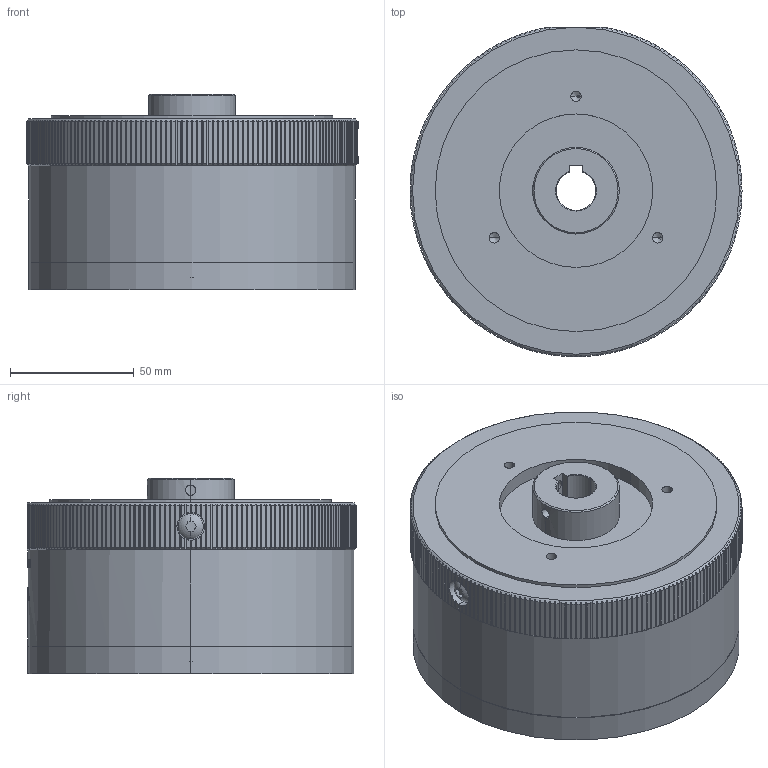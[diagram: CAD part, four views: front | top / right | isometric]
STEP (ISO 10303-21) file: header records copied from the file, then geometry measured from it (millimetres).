
FILE_DESCRIPTION (( 'STEP AP203' ), '1' );
FILE_NAME ('MTL50-16mm CUSTOMER SOLID.STEP', '2014-06-19T19:55:54', ( '' ), ( '' ), 'SwSTEP 2.0', 'SolidWorks 2014', '' );
FILE_SCHEMA (( 'CONFIG_CONTROL_DESIGN' ));
Products named in the file (1): MTL50-16mm CUSTOMER SOLID
Bounding box: 134.11 x 133.1 x 78.99 mm (x, y, z)
Volume: 924929.5 mm3; surface area: 70076 mm2
Topology: 1 solids, 1 shells, 1053 faces, 3334 edges, 2329 vertices
Faces by surface type: plane 735, cylinder 291, cone 23, torus 4
Entity records: 43443 total; most frequent: CARTESIAN_POINT 16073, ORIENTED_EDGE 6644, DIRECTION 4519, EDGE_CURVE 3322, VERTEX_POINT 2329, AXIS2_PLACEMENT_3D 1660, B_SPLINE_CURVE_WITH_KNOTS 1469, LINE 1199
